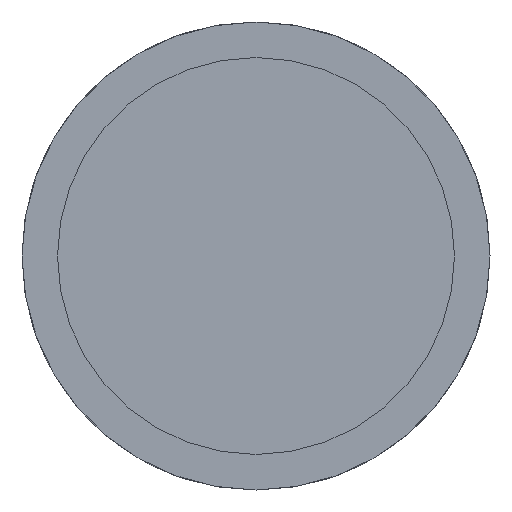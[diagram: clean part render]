
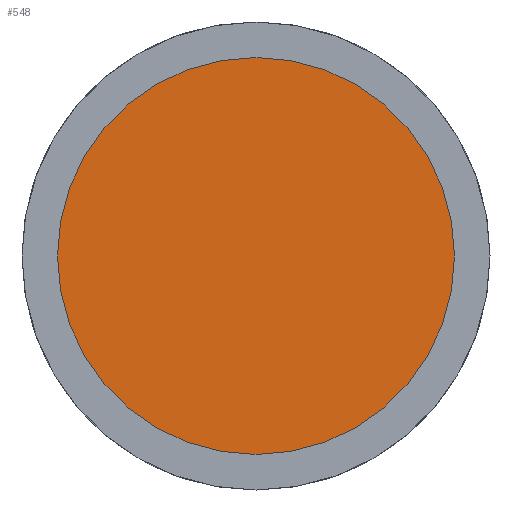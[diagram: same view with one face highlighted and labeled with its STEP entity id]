
A CAD part, left-side view. The second image highlights one B-rep face of the part: STEP entity #548.
In plain terms, the highlighted planar face has unit normal (-1, 0, 0).
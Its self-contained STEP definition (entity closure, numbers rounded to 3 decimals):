
#26=PLANE($,#622);
#96=FACE_OUTER_BOUND($,#127,.T.);
#127=EDGE_LOOP($,(#426));
#179=CIRCLE($,#623,47.5);
#248=VERTEX_POINT($,#1126);
#325=EDGE_CURVE($,#248,#248,#179,.T.);
#426=ORIENTED_EDGE($,*,*,#325,.F.);
#548=ADVANCED_FACE($,(#96),#26,.T.);
#622=AXIS2_PLACEMENT_3D($,#1125,#780,#781);
#623=AXIS2_PLACEMENT_3D($,#1127,#782,#783);
#780=DIRECTION('center_axis',(-1.,0.,0.));
#781=DIRECTION('ref_axis',(0.,0.,1.));
#782=DIRECTION('center_axis',(1.,0.,0.));
#783=DIRECTION('ref_axis',(0.,1.,0.));
#1125=CARTESIAN_POINT('Origin',(-5.,23.75,0.));
#1126=CARTESIAN_POINT('',(-5.,47.5,0.));
#1127=CARTESIAN_POINT('Origin',(-5.,0.,0.));
